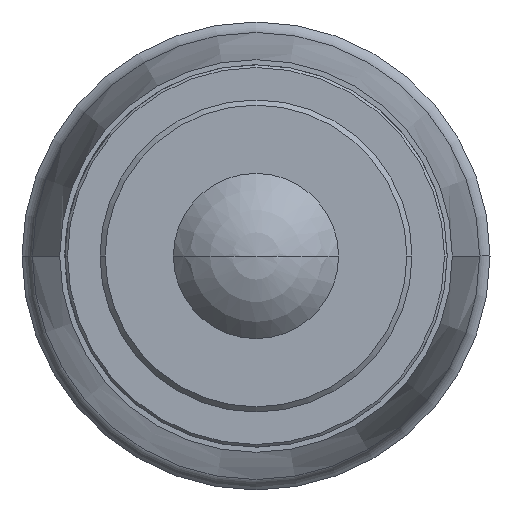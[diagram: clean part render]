
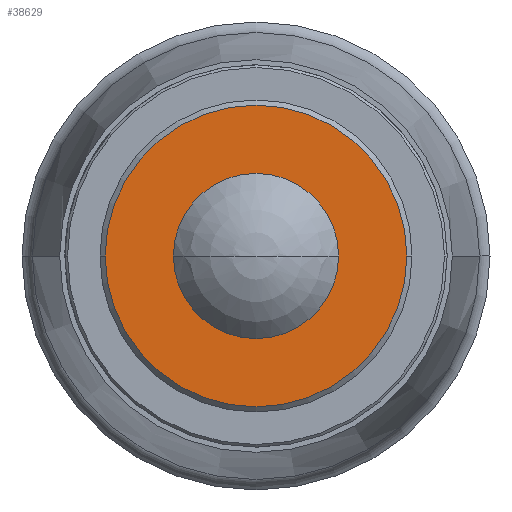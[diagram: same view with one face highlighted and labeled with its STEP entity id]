
A CAD part, left-side view. The second image highlights one B-rep face of the part: STEP entity #38629.
In plain terms, the highlighted planar face has unit normal (-1, 0, 0).
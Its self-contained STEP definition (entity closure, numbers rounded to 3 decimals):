
#14914=CARTESIAN_POINT('',(-17.4,0.,0.));
#14915=DIRECTION('',(-1.,0.,0.));
#14916=DIRECTION('',(0.,-1.,0.));
#14917=AXIS2_PLACEMENT_3D('',#14914,#14915,#14916);
#14919=CARTESIAN_POINT('',(-17.4,0.,0.));
#14920=DIRECTION('',(-1.,0.,0.));
#14921=DIRECTION('',(0.,1.,0.));
#14922=AXIS2_PLACEMENT_3D('',#14919,#14920,#14921);
#14924=CARTESIAN_POINT('',(-17.4,0.,0.));
#14925=DIRECTION('',(-1.,0.,0.));
#14926=DIRECTION('',(0.,1.,0.));
#14927=AXIS2_PLACEMENT_3D('',#14924,#14925,#14926);
#14929=CARTESIAN_POINT('',(-17.4,0.,0.));
#14930=DIRECTION('',(-1.,0.,0.));
#14931=DIRECTION('',(0.,-1.,0.));
#14932=AXIS2_PLACEMENT_3D('',#14929,#14930,#14931);
#14990=CARTESIAN_POINT('',(-17.4,-5.8,0.));
#14991=CARTESIAN_POINT('',(-17.4,5.8,0.));
#14992=VERTEX_POINT('',#14990);
#14993=VERTEX_POINT('',#14991);
#15453=CARTESIAN_POINT('',(-17.4,3.175,0.));
#15455=VERTEX_POINT('',#15453);
#15457=CARTESIAN_POINT('',(-17.4,-3.175,0.));
#15459=VERTEX_POINT('',#15457);
#38615=CARTESIAN_POINT('',(-17.4,0.,0.));
#38616=DIRECTION('',(1.,0.,0.));
#38617=DIRECTION('',(0.,-1.,0.));
#38618=AXIS2_PLACEMENT_3D('',#38615,#38616,#38617);
#38619=PLANE('',#38618);
#38621=ORIENTED_EDGE('',*,*,#38620,.F.);
#38622=ORIENTED_EDGE('',*,*,#38605,.F.);
#38623=EDGE_LOOP('',(#38621,#38622));
#38624=FACE_OUTER_BOUND('',#38623,.F.);
#38625=ORIENTED_EDGE('',*,*,#38458,.T.);
#38626=ORIENTED_EDGE('',*,*,#38482,.T.);
#38627=EDGE_LOOP('',(#38625,#38626));
#38628=FACE_BOUND('',#38627,.F.);
#38629=ADVANCED_FACE('',(#38624,#38628),#38619,.F.);
#14918=CIRCLE('',#14917,5.8);
#14923=CIRCLE('',#14922,5.8);
#14928=CIRCLE('',#14927,3.175);
#14933=CIRCLE('',#14932,3.175);
#38458=EDGE_CURVE('',#15455,#15459,#14928,.T.);
#38482=EDGE_CURVE('',#15459,#15455,#14933,.T.);
#38605=EDGE_CURVE('',#14993,#14992,#14923,.T.);
#38620=EDGE_CURVE('',#14992,#14993,#14918,.T.);
